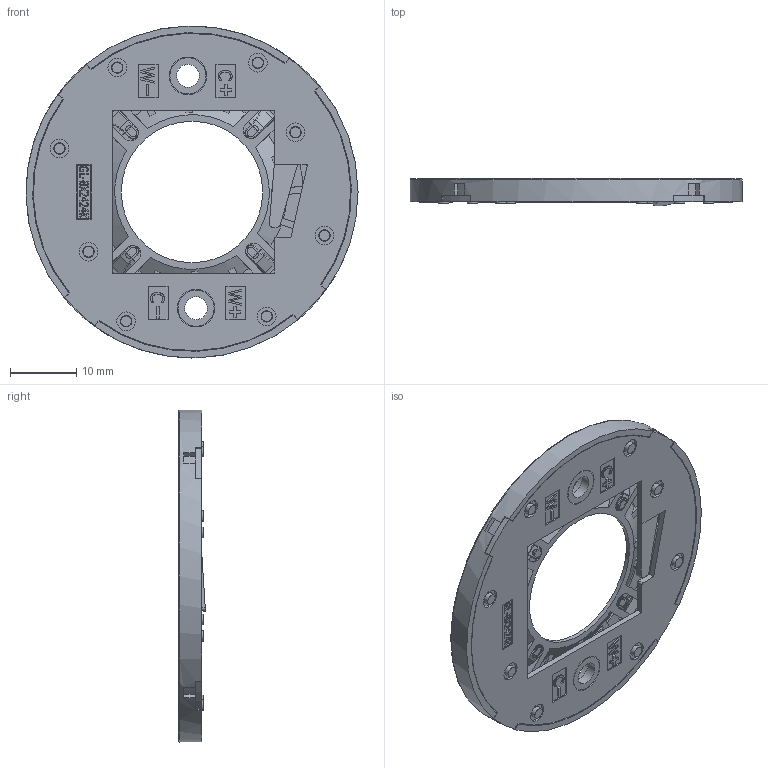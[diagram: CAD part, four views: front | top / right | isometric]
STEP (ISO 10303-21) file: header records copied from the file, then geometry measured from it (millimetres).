
FILE_DESCRIPTION(/* description */ (''),/* implementation_level */ '2;1');
FILE_NAME(/* name */ 'C:\Users\CS\Desktop\BXHD-2424-213规格图.stp',/* time_stamp */ '2024-10-14T16:02:23+08:00',/* author */ ('CS'),/* organization */ (''),/* preprocessor_version */ 'ST-DEVELOPER v18',/* originating_system */ 'Autodesk Inventor 2020',/* authorisation */ '');
FILE_SCHEMA (('AUTOMOTIVE_DESIGN { 1 0 10303 214 3 1 1 }'));
Length unit declared in the file: millimetre
Products named in the file (4): GL-BX2424K规格图; BX2424K-1（20240710端子槽加料）; BX2424K-3（20231222）; 1830-2G（规格图用）
Assembly tree (6 placements, depth 2):
  GL-BX2424K规格图
    BX2424K-1（20240710端子槽加料）
    BX2424K-3（20231222）
    1830-2G（规格图用）  x4
Bounding box: 50 x 4.05 x 50 mm (x, y, z)
Volume: 3774 mm3; surface area: 7722.3 mm2
Topology: 6 solids, 6 shells, 1663 faces, 4440 edges, 2906 vertices
Faces by surface type: plane 978, bspline 317, cylinder 306, cone 33, torus 29
Full cylindrical faces by diameter (mm): 1.6 x8, 1.7 x8, 2.8 x8, 3.3 x8, 3.45 x2, 3.7 x1, 5.45 x2, 5.65 x2, 6.6 x2, 8.6 x2, 21.3 x1, 50 x1
Entity records: 46677 total; most frequent: CARTESIAN_POINT 11696, ORIENTED_EDGE 7764, DIRECTION 6315, EDGE_CURVE 3882, LINE 2627, VECTOR 2627, VERTEX_POINT 2585, AXIS2_PLACEMENT_3D 1844
